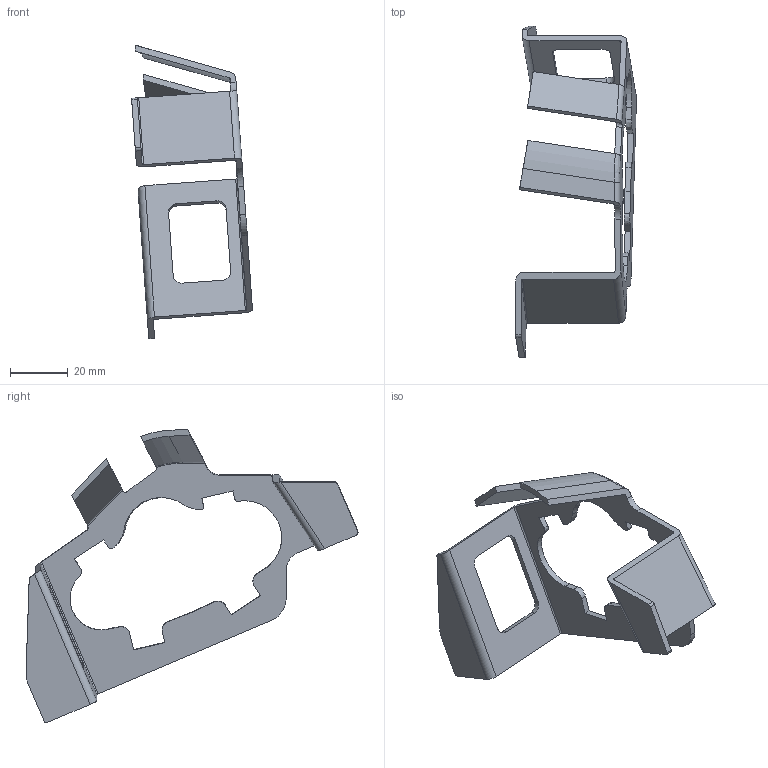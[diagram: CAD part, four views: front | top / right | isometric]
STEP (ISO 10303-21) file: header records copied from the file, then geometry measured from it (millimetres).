
FILE_DESCRIPTION(('CATIA V5 STEP Exchange','CAx-IF Rec.Pracs.--- Model Styling and Organization---1.4--- 2014-01-23'),'2;1');
FILE_NAME('C:\Users\chaipeng\Desktop\Banjin-2024.03.27.stp','2025-03-27T08:02:31+00:00',('none'),('none'),'CATIA Version 5-6 Release 2018','CATIA V5 STEP AP214','none');
FILE_SCHEMA(('AUTOMOTIVE_DESIGN { 1 0 10303 214 1 1 1 1 }'));
Length unit declared in the file: millimetre
Products named in the file (1): 小笑脸
Bounding box: 41.95 x 115.19 x 101.76 mm (x, y, z)
Volume: 12985.4 mm3; surface area: 14875.3 mm2
Topology: 1 solids, 1 shells, 93 faces, 272 edges, 181 vertices
Faces by surface type: bspline 38, cylinder 28, plane 27
Entity records: 4131 total; most frequent: CARTESIAN_POINT 2175, ORIENTED_EDGE 544, EDGE_CURVE 272, B_SPLINE_CURVE_WITH_KNOTS 213, VERTEX_POINT 181, DIRECTION 167, EDGE_LOOP 97, ADVANCED_FACE 93
